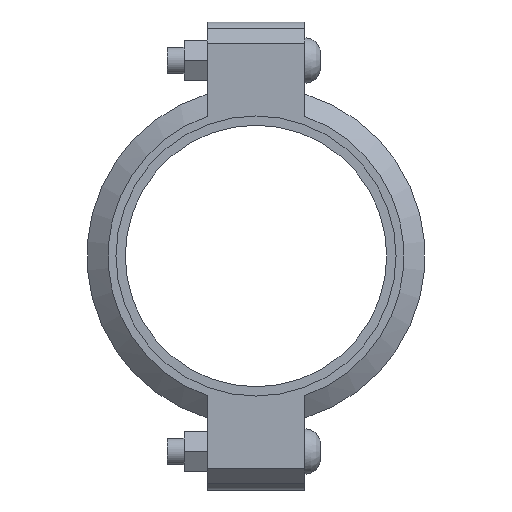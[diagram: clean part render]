
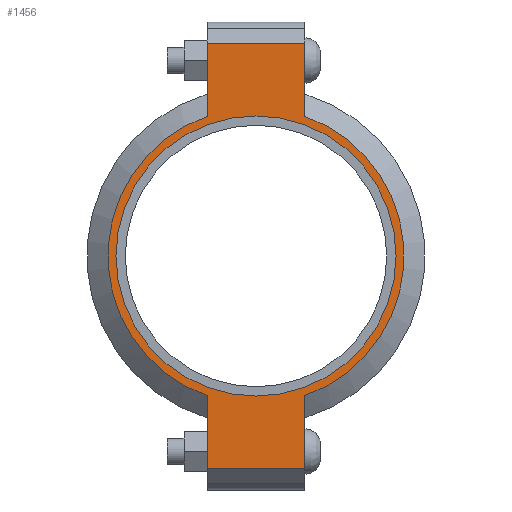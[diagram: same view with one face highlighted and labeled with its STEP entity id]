
A CAD part, left-side view. The second image highlights one B-rep face of the part: STEP entity #1456.
In plain terms, the highlighted planar face has unit normal (-1, 0, 0) as drawn and (0, 0, 1) by its records, which use the part's own axes.
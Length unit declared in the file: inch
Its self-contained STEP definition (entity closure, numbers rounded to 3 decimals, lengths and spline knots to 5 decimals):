
#136=LINE('',#2507,#227);
#144=LINE('',#2543,#235);
#151=LINE('',#2564,#242);
#160=LINE('',#2596,#251);
#161=LINE('',#2600,#252);
#162=LINE('',#2602,#253);
#227=VECTOR('',#2029,0.3937);
#235=VECTOR('',#2045,0.3937);
#242=VECTOR('',#2064,0.3937);
#251=VECTOR('',#2089,0.3937);
#252=VECTOR('',#2094,0.3937);
#253=VECTOR('',#2095,0.3937);
#305=FACE_BOUND('',#465,.T.);
#369=FACE_OUTER_BOUND('',#464,.T.);
#464=EDGE_LOOP('',(#1191,#1192,#1193,#1194,#1195,#1196,#1197,#1198));
#465=EDGE_LOOP('',(#1199));
#562=CIRCLE('',#1699,3.5);
#563=CIRCLE('',#1700,3.5);
#564=CIRCLE('',#1701,3.3125);
#667=VERTEX_POINT('',#2504);
#668=VERTEX_POINT('',#2506);
#679=VERTEX_POINT('',#2538);
#680=VERTEX_POINT('',#2542);
#687=VERTEX_POINT('',#2561);
#688=VERTEX_POINT('',#2563);
#698=VERTEX_POINT('',#2599);
#699=VERTEX_POINT('',#2601);
#700=VERTEX_POINT('',#2604);
#831=EDGE_CURVE('',#668,#667,#136,.T.);
#845=EDGE_CURVE('',#680,#679,#144,.T.);
#855=EDGE_CURVE('',#688,#687,#151,.T.);
#870=EDGE_CURVE('',#680,#667,#160,.T.);
#871=EDGE_CURVE('',#679,#688,#562,.T.);
#872=EDGE_CURVE('',#698,#687,#161,.T.);
#873=EDGE_CURVE('',#698,#699,#162,.T.);
#874=EDGE_CURVE('',#699,#668,#563,.T.);
#875=EDGE_CURVE('',#700,#700,#564,.T.);
#1191=ORIENTED_EDGE('',*,*,#870,.F.);
#1192=ORIENTED_EDGE('',*,*,#845,.T.);
#1193=ORIENTED_EDGE('',*,*,#871,.T.);
#1194=ORIENTED_EDGE('',*,*,#855,.T.);
#1195=ORIENTED_EDGE('',*,*,#872,.F.);
#1196=ORIENTED_EDGE('',*,*,#873,.T.);
#1197=ORIENTED_EDGE('',*,*,#874,.T.);
#1198=ORIENTED_EDGE('',*,*,#831,.T.);
#1199=ORIENTED_EDGE('',*,*,#875,.T.);
#1310=PLANE('',#1698);
#1456=ADVANCED_FACE('',(#369,#305),#1310,.T.);
#1698=AXIS2_PLACEMENT_3D('',#2597,#2090,#2091);
#1699=AXIS2_PLACEMENT_3D('',#2598,#2092,#2093);
#1700=AXIS2_PLACEMENT_3D('',#2603,#2096,#2097);
#1701=AXIS2_PLACEMENT_3D('',#2605,#2098,#2099);
#2029=DIRECTION('',(-1.,0.,0.));
#2045=DIRECTION('',(1.,0.,0.));
#2064=DIRECTION('',(1.,0.,0.));
#2089=DIRECTION('',(0.,1.,0.));
#2090=DIRECTION('center_axis',(0.,0.,1.));
#2091=DIRECTION('ref_axis',(1.,0.,0.));
#2092=DIRECTION('center_axis',(0.,0.,1.));
#2093=DIRECTION('ref_axis',(-1.,0.,0.));
#2094=DIRECTION('',(0.,-1.,0.));
#2095=DIRECTION('',(-1.,0.,0.));
#2096=DIRECTION('center_axis',(0.,0.,1.));
#2097=DIRECTION('ref_axis',(-1.,0.,0.));
#2098=DIRECTION('center_axis',(0.,0.,-1.));
#2099=DIRECTION('ref_axis',(-1.,0.,0.));
#2504=CARTESIAN_POINT('',(-5.035,1.156,1.065));
#2506=CARTESIAN_POINT('',(-3.30358,1.156,1.065));
#2507=CARTESIAN_POINT('',(-5.535,1.156,1.065));
#2538=CARTESIAN_POINT('',(-3.30358,-1.156,1.065));
#2542=CARTESIAN_POINT('',(-5.035,-1.156,1.065));
#2543=CARTESIAN_POINT('',(5.535,-1.156,1.065));
#2561=CARTESIAN_POINT('',(5.035,-1.156,1.065));
#2563=CARTESIAN_POINT('',(3.30358,-1.156,1.065));
#2564=CARTESIAN_POINT('',(5.535,-1.156,1.065));
#2596=CARTESIAN_POINT('',(-5.035,0.578,1.065));
#2597=CARTESIAN_POINT('Origin',(0.,0.,1.065));
#2598=CARTESIAN_POINT('Origin',(0.,0.,1.065));
#2599=CARTESIAN_POINT('',(5.035,1.156,1.065));
#2600=CARTESIAN_POINT('',(5.035,-0.578,1.065));
#2601=CARTESIAN_POINT('',(3.30358,1.156,1.065));
#2602=CARTESIAN_POINT('',(-5.535,1.156,1.065));
#2603=CARTESIAN_POINT('Origin',(0.,0.,1.065));
#2604=CARTESIAN_POINT('',(3.3125,0.,1.065));
#2605=CARTESIAN_POINT('Origin',(0.,0.,1.065));
